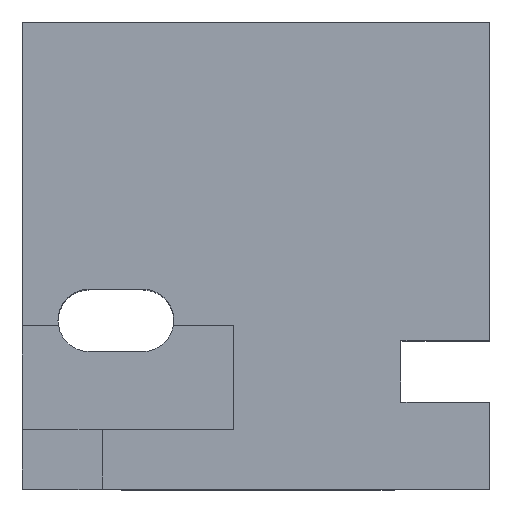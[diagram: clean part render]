
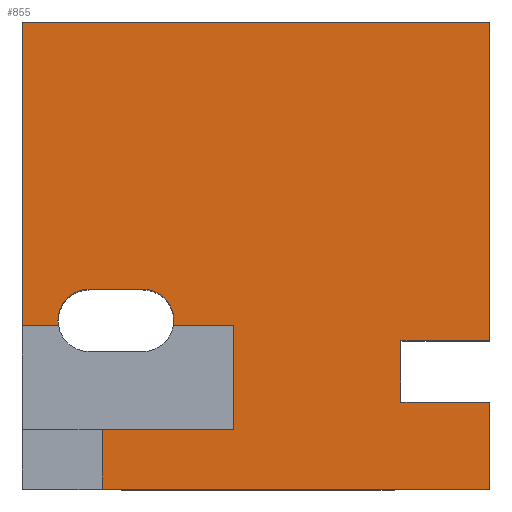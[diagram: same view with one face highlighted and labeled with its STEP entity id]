
A CAD part, top view. The second image highlights one B-rep face of the part: STEP entity #855.
In plain terms, the highlighted planar face has unit normal (0, 0, 1).
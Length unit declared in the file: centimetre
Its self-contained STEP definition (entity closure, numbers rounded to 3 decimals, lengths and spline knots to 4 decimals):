
#2 = ORIENTED_EDGE ( 'NONE', *, *, #483, .T. ) ;
#11 = CARTESIAN_POINT ( 'NONE',  ( 810.2809, 186.2544, 1000. ) ) ;
#16 = AXIS2_PLACEMENT_3D ( 'NONE', #535, #755, #1169 ) ;
#35 = ORIENTED_EDGE ( 'NONE', *, *, #129, .F. ) ;
#36 = CARTESIAN_POINT ( 'NONE',  ( 170.91, 128.1867, 1000. ) ) ;
#47 = VERTEX_POINT ( 'NONE', #1085 ) ;
#51 = DIRECTION ( 'NONE',  ( 0., 0., -1. ) ) ;
#59 = VERTEX_POINT ( 'NONE', #1255 ) ;
#74 = VECTOR ( 'NONE', #1221, 100. ) ;
#75 = ORIENTED_EDGE ( 'NONE', *, *, #1027, .T. ) ;
#84 = ORIENTED_EDGE ( 'NONE', *, *, #295, .F. ) ;
#93 = EDGE_LOOP ( 'NONE', ( #1244, #245, #2, #334, #813, #84, #974, #988, #75, #489, #1229, #151, #35, #484, #937, #682, #726 ) ) ;
#103 = AXIS2_PLACEMENT_3D ( 'NONE', #978, #51, #459 ) ;
#106 = CARTESIAN_POINT ( 'NONE',  ( 170.91, 285.0647, 1000. ) ) ;
#115 = LINE ( 'NONE', #1151, #122 ) ;
#117 = LINE ( 'NONE', #338, #1179 ) ;
#122 = VECTOR ( 'NONE', #931, 100. ) ;
#129 = EDGE_CURVE ( 'NONE', #1079, #130, #178, .T. ) ;
#130 = VERTEX_POINT ( 'NONE', #579 ) ;
#132 = LINE ( 'NONE', #947, #1329 ) ;
#144 = VERTEX_POINT ( 'NONE', #884 ) ;
#147 = DIRECTION ( 'NONE',  ( 1., 0., 0. ) ) ;
#151 = ORIENTED_EDGE ( 'NONE', *, *, #925, .F. ) ;
#161 = VECTOR ( 'NONE', #754, 100. ) ;
#173 = EDGE_CURVE ( 'NONE', #1079, #977, #1317, .T. ) ;
#178 = LINE ( 'NONE', #254, #565 ) ;
#183 = VECTOR ( 'NONE', #1015, 100. ) ;
#213 = LINE ( 'NONE', #441, #1247 ) ;
#217 = VERTEX_POINT ( 'NONE', #462 ) ;
#233 = FACE_OUTER_BOUND ( 'NONE', #93, .T. ) ;
#245 = ORIENTED_EDGE ( 'NONE', *, *, #1070, .T. ) ;
#254 = CARTESIAN_POINT ( 'NONE',  ( 810.2809, 317.8987, 1000. ) ) ;
#288 = DIRECTION ( 'NONE',  ( 0., 0., -1. ) ) ;
#290 = VERTEX_POINT ( 'NONE', #494 ) ;
#295 = EDGE_CURVE ( 'NONE', #217, #952, #838, .T. ) ;
#308 = DIRECTION ( 'NONE',  ( 1., 0., 0. ) ) ;
#316 = DIRECTION ( 'NONE',  ( 0., -1., 0. ) ) ;
#323 = EDGE_CURVE ( 'NONE', #655, #47, #982, .T. ) ;
#327 = PLANE ( 'NONE',  #16 ) ;
#334 = ORIENTED_EDGE ( 'NONE', *, *, #508, .T. ) ;
#338 = CARTESIAN_POINT ( 'NONE',  ( 0., 1000., 1000. ) ) ;
#345 = DIRECTION ( 'NONE',  ( 1., 0., 0. ) ) ;
#374 = EDGE_CURVE ( 'NONE', #952, #446, #955, .T. ) ;
#396 = AXIS2_PLACEMENT_3D ( 'NONE', #922, #288, #308 ) ;
#400 = CARTESIAN_POINT ( 'NONE',  ( 452.7614, 128.1867, 1000. ) ) ;
#428 = CARTESIAN_POINT ( 'NONE',  ( 170.91, 0., 1000. ) ) ;
#441 = CARTESIAN_POINT ( 'NONE',  ( 810.2809, 186.2544, 1000. ) ) ;
#446 = VERTEX_POINT ( 'NONE', #1066 ) ;
#459 = DIRECTION ( 'NONE',  ( 1., 0., 0. ) ) ;
#462 = CARTESIAN_POINT ( 'NONE',  ( 452.7614, 128.1867, 1000. ) ) ;
#466 = CARTESIAN_POINT ( 'NONE',  ( 1000., 1000., 1000. ) ) ;
#474 = DIRECTION ( 'NONE',  ( 0., 1., 0. ) ) ;
#483 = EDGE_CURVE ( 'NONE', #867, #59, #1260, .T. ) ;
#484 = ORIENTED_EDGE ( 'NONE', *, *, #173, .T. ) ;
#489 = ORIENTED_EDGE ( 'NONE', *, *, #1336, .T. ) ;
#494 = CARTESIAN_POINT ( 'NONE',  ( 0., 349.9869, 1000. ) ) ;
#508 = EDGE_CURVE ( 'NONE', #59, #446, #610, .T. ) ;
#515 = DIRECTION ( 'NONE',  ( 0., -1., 0. ) ) ;
#526 = VERTEX_POINT ( 'NONE', #1072 ) ;
#530 = DIRECTION ( 'NONE',  ( -1., 0., 0. ) ) ;
#535 = CARTESIAN_POINT ( 'NONE',  ( 0., 0., 1000. ) ) ;
#536 = DIRECTION ( 'NONE',  ( 0., 0., -1. ) ) ;
#540 = LINE ( 'NONE', #1049, #161 ) ;
#565 = VECTOR ( 'NONE', #1205, 100. ) ;
#575 = DIRECTION ( 'NONE',  ( 1., 0., 0. ) ) ;
#578 = CARTESIAN_POINT ( 'NONE',  ( 77.163, 349.9869, 1000. ) ) ;
#579 = CARTESIAN_POINT ( 'NONE',  ( 810.2809, 317.8987, 1000. ) ) ;
#592 = CIRCLE ( 'NONE', #103, 66.5659 ) ;
#601 = CARTESIAN_POINT ( 'NONE',  ( 452.7614, 128.1867, 1000. ) ) ;
#610 = CIRCLE ( 'NONE', #877, 66.5659 ) ;
#638 = CARTESIAN_POINT ( 'NONE',  ( 1000., 0., 1000. ) ) ;
#640 = CARTESIAN_POINT ( 'NONE',  ( 257.584, 361.5316, 1000. ) ) ;
#655 = VERTEX_POINT ( 'NONE', #578 ) ;
#682 = ORIENTED_EDGE ( 'NONE', *, *, #1334, .T. ) ;
#684 = VECTOR ( 'NONE', #530, 100. ) ;
#702 = LINE ( 'NONE', #11, #183 ) ;
#706 = VECTOR ( 'NONE', #474, 100. ) ;
#713 = EDGE_CURVE ( 'NONE', #924, #929, #730, .T. ) ;
#726 = ORIENTED_EDGE ( 'NONE', *, *, #1273, .F. ) ;
#730 = LINE ( 'NONE', #106, #1204 ) ;
#737 = DIRECTION ( 'NONE',  ( -1., 0., 0. ) ) ;
#754 = DIRECTION ( 'NONE',  ( -1., 0., 0. ) ) ;
#755 = DIRECTION ( 'NONE',  ( 0., 0., 1. ) ) ;
#757 = EDGE_CURVE ( 'NONE', #888, #144, #702, .T. ) ;
#807 = VERTEX_POINT ( 'NONE', #638 ) ;
#813 = ORIENTED_EDGE ( 'NONE', *, *, #374, .F. ) ;
#835 = CARTESIAN_POINT ( 'NONE',  ( 810.2809, 186.2544, 1000. ) ) ;
#836 = VECTOR ( 'NONE', #575, 100. ) ;
#838 = LINE ( 'NONE', #400, #74 ) ;
#842 = EDGE_CURVE ( 'NONE', #977, #526, #117, .T. ) ;
#855 = ADVANCED_FACE ( 'NONE', ( #233 ), #327, .T. ) ;
#867 = VERTEX_POINT ( 'NONE', #1058 ) ;
#877 = AXIS2_PLACEMENT_3D ( 'NONE', #640, #536, #147 ) ;
#884 = CARTESIAN_POINT ( 'NONE',  ( 1000., 186.2544, 1000. ) ) ;
#888 = VERTEX_POINT ( 'NONE', #835 ) ;
#922 = CARTESIAN_POINT ( 'NONE',  ( 142.7201, 361.5316, 1000. ) ) ;
#924 = VERTEX_POINT ( 'NONE', #36 ) ;
#925 = EDGE_CURVE ( 'NONE', #130, #888, #213, .T. ) ;
#929 = VERTEX_POINT ( 'NONE', #428 ) ;
#931 = DIRECTION ( 'NONE',  ( 0., -1., 0. ) ) ;
#937 = ORIENTED_EDGE ( 'NONE', *, *, #842, .T. ) ;
#947 = CARTESIAN_POINT ( 'NONE',  ( 1000., 1000., 1000. ) ) ;
#952 = VERTEX_POINT ( 'NONE', #1306 ) ;
#955 = LINE ( 'NONE', #968, #684 ) ;
#968 = CARTESIAN_POINT ( 'NONE',  ( 452.7614, 349.9869, 1000. ) ) ;
#974 = ORIENTED_EDGE ( 'NONE', *, *, #1149, .T. ) ;
#977 = VERTEX_POINT ( 'NONE', #466 ) ;
#978 = CARTESIAN_POINT ( 'NONE',  ( 142.7201, 361.5316, 1000. ) ) ;
#982 = CIRCLE ( 'NONE', #396, 66.5659 ) ;
#988 = ORIENTED_EDGE ( 'NONE', *, *, #713, .T. ) ;
#989 = VECTOR ( 'NONE', #1113, 100. ) ;
#1001 = CARTESIAN_POINT ( 'NONE',  ( 1000., 1000., 1000. ) ) ;
#1009 = VECTOR ( 'NONE', #345, 100. ) ;
#1015 = DIRECTION ( 'NONE',  ( 1., 0., 0. ) ) ;
#1027 = EDGE_CURVE ( 'NONE', #929, #807, #1108, .T. ) ;
#1049 = CARTESIAN_POINT ( 'NONE',  ( 452.7614, 349.9869, 1000. ) ) ;
#1058 = CARTESIAN_POINT ( 'NONE',  ( 142.7201, 428.0975, 1000. ) ) ;
#1066 = CARTESIAN_POINT ( 'NONE',  ( 323.1412, 349.9869, 1000. ) ) ;
#1069 = DIRECTION ( 'NONE',  ( 0., 1., 0. ) ) ;
#1070 = EDGE_CURVE ( 'NONE', #47, #867, #592, .T. ) ;
#1072 = CARTESIAN_POINT ( 'NONE',  ( 0., 1000., 1000. ) ) ;
#1079 = VERTEX_POINT ( 'NONE', #1294 ) ;
#1085 = CARTESIAN_POINT ( 'NONE',  ( 76.1542, 361.5316, 1000. ) ) ;
#1108 = LINE ( 'NONE', #1177, #836 ) ;
#1113 = DIRECTION ( 'NONE',  ( -1., 0., 0. ) ) ;
#1149 = EDGE_CURVE ( 'NONE', #217, #924, #1230, .T. ) ;
#1151 = CARTESIAN_POINT ( 'NONE',  ( 0., 1000., 1000. ) ) ;
#1160 = CARTESIAN_POINT ( 'NONE',  ( 257.584, 428.0975, 1000. ) ) ;
#1169 = DIRECTION ( 'NONE',  ( 1., 0., 0. ) ) ;
#1177 = CARTESIAN_POINT ( 'NONE',  ( 0., 0., 1000. ) ) ;
#1179 = VECTOR ( 'NONE', #737, 100. ) ;
#1204 = VECTOR ( 'NONE', #515, 100. ) ;
#1205 = DIRECTION ( 'NONE',  ( -1., 0., 0. ) ) ;
#1221 = DIRECTION ( 'NONE',  ( 0., 1., 0. ) ) ;
#1229 = ORIENTED_EDGE ( 'NONE', *, *, #757, .F. ) ;
#1230 = LINE ( 'NONE', #601, #989 ) ;
#1244 = ORIENTED_EDGE ( 'NONE', *, *, #323, .T. ) ;
#1247 = VECTOR ( 'NONE', #316, 100. ) ;
#1255 = CARTESIAN_POINT ( 'NONE',  ( 257.584, 428.0975, 1000. ) ) ;
#1260 = LINE ( 'NONE', #1160, #1009 ) ;
#1273 = EDGE_CURVE ( 'NONE', #655, #290, #540, .T. ) ;
#1294 = CARTESIAN_POINT ( 'NONE',  ( 1000., 317.8987, 1000. ) ) ;
#1306 = CARTESIAN_POINT ( 'NONE',  ( 452.7614, 349.9869, 1000. ) ) ;
#1317 = LINE ( 'NONE', #1001, #706 ) ;
#1329 = VECTOR ( 'NONE', #1069, 100. ) ;
#1334 = EDGE_CURVE ( 'NONE', #526, #290, #115, .T. ) ;
#1336 = EDGE_CURVE ( 'NONE', #807, #144, #132, .T. ) ;
